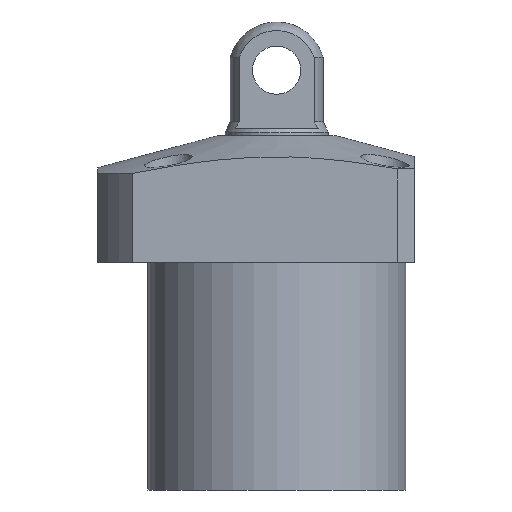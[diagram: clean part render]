
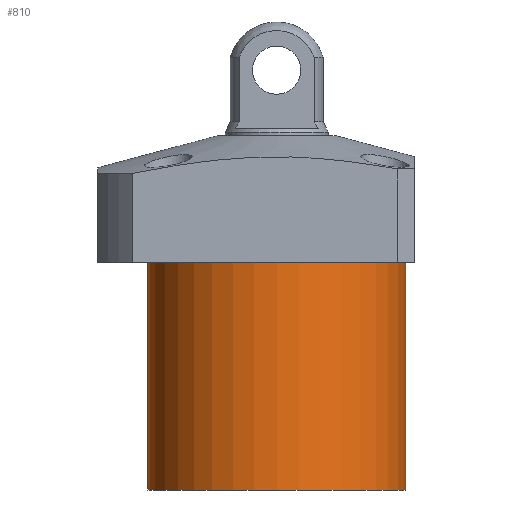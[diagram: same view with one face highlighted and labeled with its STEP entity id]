
A CAD part, front view. The second image highlights one B-rep face of the part: STEP entity #810.
In plain terms, the highlighted cylindrical face has radius 37.5 mm (diameter 75 mm), a partial arc.
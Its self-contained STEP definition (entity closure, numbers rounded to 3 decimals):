
#156 = CARTESIAN_POINT ( 'NONE',  ( 37.5, 0., -18.5 ) ) ;
#239 = VERTEX_POINT ( 'NONE', #1439 ) ;
#254 = EDGE_CURVE ( 'NONE', #1552, #239, #682, .T. ) ;
#316 = CARTESIAN_POINT ( 'NONE',  ( -37.5, 0., -84.5 ) ) ;
#320 = CIRCLE ( 'NONE', #2148, 37.5 ) ;
#361 = DIRECTION ( 'NONE',  ( -1., 0., 0. ) ) ;
#424 = AXIS2_PLACEMENT_3D ( 'NONE', #2405, #1662, #361 ) ;
#480 = FACE_OUTER_BOUND ( 'NONE', #849, .T. ) ;
#682 = CIRCLE ( 'NONE', #424, 37.5 ) ;
#686 = DIRECTION ( 'NONE',  ( 0., 0., 1. ) ) ;
#691 = CARTESIAN_POINT ( 'NONE',  ( 0., 0., -84.5 ) ) ;
#782 = CARTESIAN_POINT ( 'NONE',  ( 37.5, 0., -84.5 ) ) ;
#810 = ADVANCED_FACE ( 'NONE', ( #480 ), #1905, .T. ) ;
#830 = VERTEX_POINT ( 'NONE', #156 ) ;
#849 = EDGE_LOOP ( 'NONE', ( #1273, #1251, #1765, #1886 ) ) ;
#855 = EDGE_CURVE ( 'NONE', #1552, #830, #1839, .T. ) ;
#871 = DIRECTION ( 'NONE',  ( 1., 0., 0. ) ) ;
#985 = LINE ( 'NONE', #316, #1663 ) ;
#1034 = AXIS2_PLACEMENT_3D ( 'NONE', #691, #2003, #871 ) ;
#1251 = ORIENTED_EDGE ( 'NONE', *, *, #254, .F. ) ;
#1273 = ORIENTED_EDGE ( 'NONE', *, *, #1769, .F. ) ;
#1439 = CARTESIAN_POINT ( 'NONE',  ( -37.5, 0., -84.5 ) ) ;
#1552 = VERTEX_POINT ( 'NONE', #782 ) ;
#1567 = DIRECTION ( 'NONE',  ( 0., 0., -1. ) ) ;
#1660 = CARTESIAN_POINT ( 'NONE',  ( 37.5, 0., -84.5 ) ) ;
#1662 = DIRECTION ( 'NONE',  ( 0., 0., -1. ) ) ;
#1663 = VECTOR ( 'NONE', #686, 1000. ) ;
#1666 = VECTOR ( 'NONE', #2233, 1000. ) ;
#1765 = ORIENTED_EDGE ( 'NONE', *, *, #855, .T. ) ;
#1769 = EDGE_CURVE ( 'NONE', #239, #2001, #985, .T. ) ;
#1839 = LINE ( 'NONE', #1660, #1666 ) ;
#1886 = ORIENTED_EDGE ( 'NONE', *, *, #2063, .T. ) ;
#1905 = CYLINDRICAL_SURFACE ( 'NONE', #1034, 37.5 ) ;
#1924 = CARTESIAN_POINT ( 'NONE',  ( -37.5, 0., -18.5 ) ) ;
#1945 = DIRECTION ( 'NONE',  ( 1., 0., 0. ) ) ;
#2001 = VERTEX_POINT ( 'NONE', #1924 ) ;
#2003 = DIRECTION ( 'NONE',  ( 0., 0., 1. ) ) ;
#2063 = EDGE_CURVE ( 'NONE', #830, #2001, #320, .T. ) ;
#2125 = CARTESIAN_POINT ( 'NONE',  ( 0., 0., -18.5 ) ) ;
#2148 = AXIS2_PLACEMENT_3D ( 'NONE', #2125, #1567, #1945 ) ;
#2233 = DIRECTION ( 'NONE',  ( 0., 0., 1. ) ) ;
#2405 = CARTESIAN_POINT ( 'NONE',  ( 0., 0., -84.5 ) ) ;
